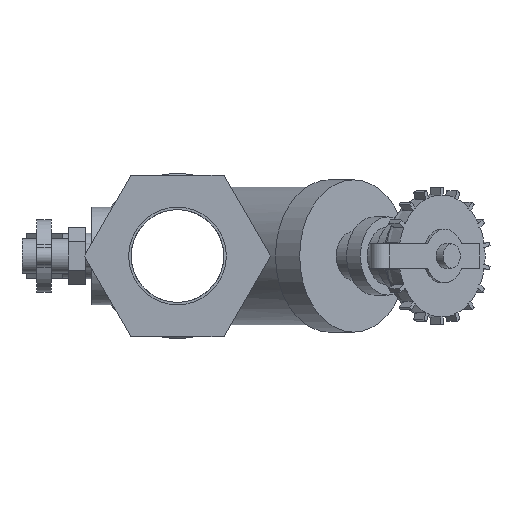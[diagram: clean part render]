
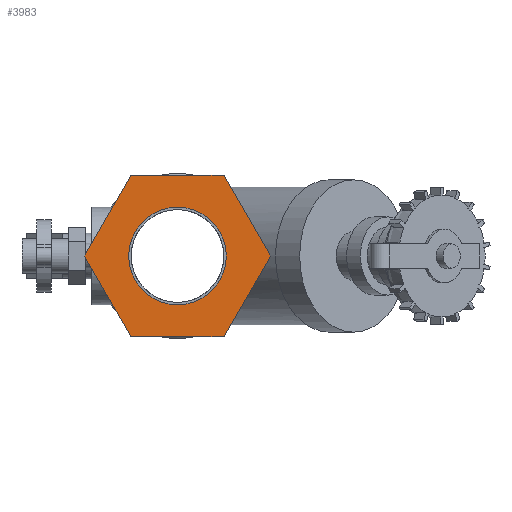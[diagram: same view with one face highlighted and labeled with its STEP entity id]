
A CAD part, left-side view. The second image highlights one B-rep face of the part: STEP entity #3983.
In plain terms, the highlighted planar face has unit normal (-1, 0, 0).
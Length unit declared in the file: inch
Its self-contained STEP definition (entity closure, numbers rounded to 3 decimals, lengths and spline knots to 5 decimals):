
#66=PLANE('',#4269);
#207=FACE_BOUND('',#1176,.T.);
#260=LINE('',#6605,#605);
#261=LINE('',#6607,#606);
#262=LINE('',#6609,#607);
#263=LINE('',#6611,#608);
#264=LINE('',#6613,#609);
#265=LINE('',#6614,#610);
#605=VECTOR('',#4810,0.3937);
#606=VECTOR('',#4811,0.3937);
#607=VECTOR('',#4812,0.3937);
#608=VECTOR('',#4813,0.3937);
#609=VECTOR('',#4814,0.3937);
#610=VECTOR('',#4815,0.3937);
#948=FACE_OUTER_BOUND('',#1175,.T.);
#1175=EDGE_LOOP('',(#2765,#2766,#2767,#2768,#2769,#2770));
#1176=EDGE_LOOP('',(#2771));
#1454=CIRCLE('',#4270,1.);
#1695=VERTEX_POINT('',#6603);
#1696=VERTEX_POINT('',#6604);
#1697=VERTEX_POINT('',#6606);
#1698=VERTEX_POINT('',#6608);
#1699=VERTEX_POINT('',#6610);
#1700=VERTEX_POINT('',#6612);
#1701=VERTEX_POINT('',#6615);
#2115=EDGE_CURVE('',#1695,#1696,#260,.T.);
#2116=EDGE_CURVE('',#1696,#1697,#261,.T.);
#2117=EDGE_CURVE('',#1697,#1698,#262,.T.);
#2118=EDGE_CURVE('',#1698,#1699,#263,.T.);
#2119=EDGE_CURVE('',#1699,#1700,#264,.T.);
#2120=EDGE_CURVE('',#1700,#1695,#265,.T.);
#2121=EDGE_CURVE('',#1701,#1701,#1454,.T.);
#2765=ORIENTED_EDGE('',*,*,#2115,.T.);
#2766=ORIENTED_EDGE('',*,*,#2116,.T.);
#2767=ORIENTED_EDGE('',*,*,#2117,.T.);
#2768=ORIENTED_EDGE('',*,*,#2118,.T.);
#2769=ORIENTED_EDGE('',*,*,#2119,.T.);
#2770=ORIENTED_EDGE('',*,*,#2120,.T.);
#2771=ORIENTED_EDGE('',*,*,#2121,.F.);
#3983=ADVANCED_FACE('',(#948,#207),#66,.T.);
#4269=AXIS2_PLACEMENT_3D('',#6602,#4808,#4809);
#4270=AXIS2_PLACEMENT_3D('',#6616,#4816,#4817);
#4808=DIRECTION('center_axis',(-1.,0.,0.));
#4809=DIRECTION('ref_axis',(0.,0.,1.));
#4810=DIRECTION('',(0.,1.,0.));
#4811=DIRECTION('',(0.,0.5,-0.866));
#4812=DIRECTION('',(0.,-0.5,-0.866));
#4813=DIRECTION('',(0.,-1.,0.));
#4814=DIRECTION('',(0.,-0.5,0.866));
#4815=DIRECTION('',(0.,0.5,0.866));
#4816=DIRECTION('center_axis',(-1.,0.,0.));
#4817=DIRECTION('ref_axis',(0.,1.,0.));
#6602=CARTESIAN_POINT('Origin',(-6.41,0.,0.));
#6603=CARTESIAN_POINT('',(-6.41,-0.95263,1.65));
#6604=CARTESIAN_POINT('',(-6.41,0.95263,1.65));
#6605=CARTESIAN_POINT('',(-6.41,0.95263,1.65));
#6606=CARTESIAN_POINT('',(-6.41,1.90526,0.));
#6607=CARTESIAN_POINT('',(-6.41,1.90526,0.));
#6608=CARTESIAN_POINT('',(-6.41,0.95263,-1.65));
#6609=CARTESIAN_POINT('',(-6.41,0.95263,-1.65));
#6610=CARTESIAN_POINT('',(-6.41,-0.95263,-1.65));
#6611=CARTESIAN_POINT('',(-6.41,-0.95263,-1.65));
#6612=CARTESIAN_POINT('',(-6.41,-1.90526,0.));
#6613=CARTESIAN_POINT('',(-6.41,-1.90526,0.));
#6614=CARTESIAN_POINT('',(-6.41,-0.95263,1.65));
#6615=CARTESIAN_POINT('',(-6.41,-1.,0.));
#6616=CARTESIAN_POINT('Origin',(-6.41,0.,0.));
